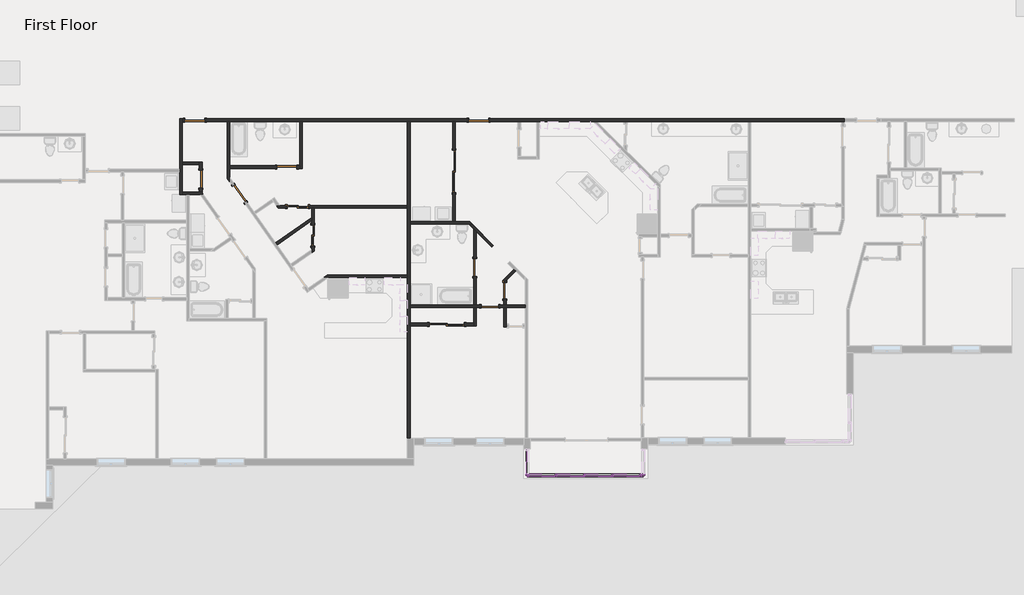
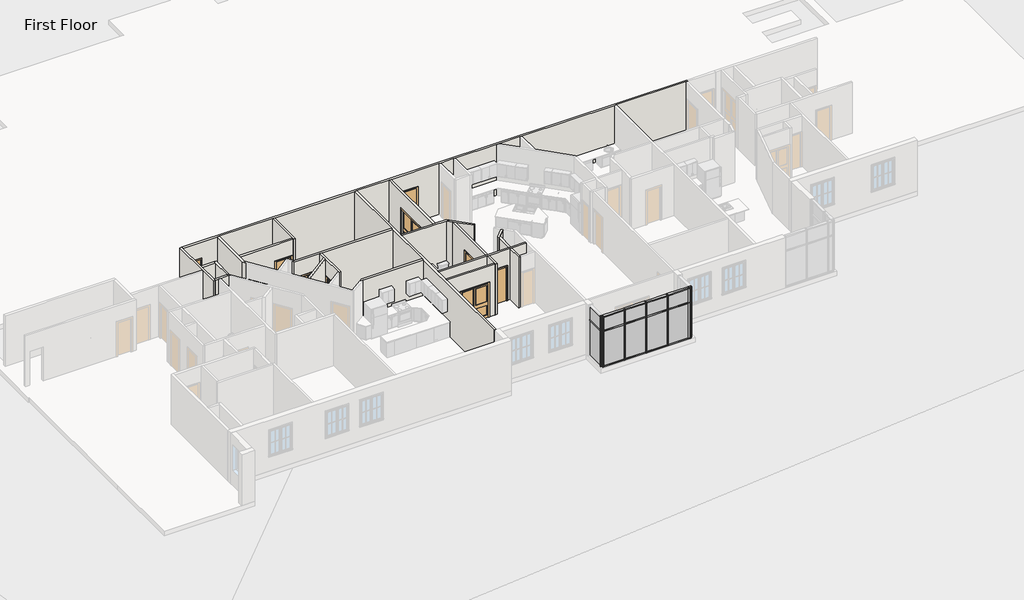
# One storey, part 3 of 17: 32 members, 23 walls, 12 doors, 12 plates.
"""IFC4 building model written with IfcOpenShell, lengths in millimetres."""

from ifc_helpers import new_model, si_unit, frame, origin, origin_with_axes, place, context, project, spatial, polyline, outline, extrude, faceted_brep, transform, mapped, element, save
from components import door_f2586ccf, door_d8f5dbb5, door_f2b275c1, door_825b8444, door_c29894e6, door_88c23cd7, door_2e7ec8be, door_caaf2a11, rectangular_mullion_rectangular_mullion_1_fa3625a1, rectangular_mullion_rectangular_mullion_1_7cbf0b94, rectangular_mullion_rectangular_mullion_1_6186cc23, rectangular_mullion_rectangular_mullion_1_049a2e78, rectangular_mullion_rectangular_mullion_1_a50b3cda, rectangular_mullion_rectangular_mullion_1_5cd4c5ac, rectangular_mullion_rectangular_mullion_1_daa2411d, rectangular_mullion_rectangular_mullion_1_c89d8757, rectangular_mullion_rectangular_mullion_1_6bbe7064, system_panel_glazed_0ed27d1d, system_panel_glazed_134bacdb, system_panel_glazed_2237517c, system_panel_glazed_5f627d4c, system_panel_glazed_119c605a, system_panel_glazed_b87cf22f

model = new_model("IFC4")

# Units and contexts
model_context = context("Model", 3, world=origin())
ifc_project = project(units=[si_unit("LENGTHUNIT", "METRE", prefix="MILLI")], contexts=[model_context])

# Site, building, storey
site = spatial("IfcSite", under=ifc_project)
building = spatial("IfcBuilding", under=site)
storey = spatial("IfcBuildingStorey", under=building, Name="First Floor", Elevation=0.0)

# Doors
placement = place(None, origin())
door_shape = door_f2586ccf(model_context)
element("IfcDoor", 1, ObjectType="Single-Flush : 28\" x 80\"", at=placement, inside=storey, context=model_context, shape_type="MappedRepresentation", body=[
    mapped(door_shape, transform((31589.3040357, -12033.9392565, 0.0), x_axis=(0.0, 1.0, 0.0), y_axis=(-1.0, 0.0, 0.0), z_axis=(0.0, 0.0, 1.0))),
])
door_2_shape = door_d8f5dbb5(model_context)
element("IfcDoor", 2, ObjectType="Single-Flush : 30\" x 80\"", at=placement, inside=storey, context=model_context, shape_type="MappedRepresentation", body=[
    mapped(door_2_shape, transform((18439.6602461, -7206.7219726, 0.0), x_axis=(0.0, -1.0, 0.0), y_axis=(1.0, 0.0, 0.0), z_axis=(0.0, 0.0, 1.0))),
])
door_3_shape = door_f2b275c1(model_context)
element("IfcDoor", 3, ObjectType="Single-Flush : 30\" x 80\"", at=placement, inside=storey, context=model_context, shape_type="MappedRepresentation", body=[
    mapped(door_3_shape, transform((30941.6040357, -12707.1736347, 0.0), x_axis=(1.0, 0.0, 0.0), y_axis=(0.0, 1.0, 0.0), z_axis=(0.0, 0.0, 1.0))),
])
element("IfcDoor", 4, ObjectType="Single-Flush : 30\" x 80\"", at=placement, inside=storey, context=model_context, shape_type="MappedRepresentation", body=[
    mapped(door_3_shape, transform((30293.9040357, -11030.7736347, 0.0), x_axis=(0.0, -1.0, 0.0), y_axis=(1.0, 0.0, 0.0), z_axis=(0.0, 0.0, 1.0))),
])
door_4_shape = door_825b8444(model_context)
element("IfcDoor", 5, ObjectType="Single-Flush : 34\" x 80\"", at=placement, inside=storey, context=model_context, shape_type="MappedRepresentation", body=[
    mapped(door_4_shape, transform((20114.7748093, -7834.753233, 0.0), x_axis=(-0.5735764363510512, 0.8191520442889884, 0.0), y_axis=(-0.8191520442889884, -0.5735764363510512, 0.0), z_axis=(0.0, 0.0, 1.0))),
])
door_5_shape = door_c29894e6(model_context)
element("IfcDoor", 6, ObjectType="Single-Flush : 34\" x 80\"", at=placement, inside=storey, context=model_context, shape_type="MappedRepresentation", body=[
    mapped(door_5_shape, transform((18188.1416991, -4651.3917963, 0.0), x_axis=(-1.0, 0.0, 0.0), y_axis=(0.0, -1.0, 0.0), z_axis=(0.0, 0.0, 1.0))),
])
element("IfcDoor", 7, ObjectType="Single-Flush : 34\" x 80\"", at=placement, inside=storey, context=model_context, shape_type="MappedRepresentation", body=[
    mapped(door_5_shape, transform((22162.0691338, -6683.3917963, 0.0), x_axis=(1.0, 0.0, 0.0), y_axis=(0.0, 1.0, 0.0), z_axis=(0.0, 0.0, 1.0))),
])
element("IfcDoor", 8, ObjectType="Single-Flush : 34\" x 80\"", at=placement, inside=storey, context=model_context, shape_type="MappedRepresentation", body=[
    mapped(door_5_shape, transform((30456.3297218, -4651.3917963, 0.0), x_axis=(-1.0, 0.0, 0.0), y_axis=(0.0, -1.0, 0.0), z_axis=(0.0, 0.0, 1.0))),
])
door_6_shape = door_88c23cd7(model_context)
element("IfcDoor", 9, ObjectType="Sliding-Closet : 36\" x 80\"", at=placement, inside=storey, context=model_context, shape_type="MappedRepresentation", body=[
    mapped(door_6_shape, transform((23160.2196169, -9642.0427038, 0.0), x_axis=(0.0, -1.0, 0.0), y_axis=(1.0, 0.0, 0.0), z_axis=(0.0, 0.0, 1.0))),
])
element("IfcDoor", 10, ObjectType="Sliding-Closet : 36\" x 80\"", at=placement, inside=storey, context=model_context, shape_type="MappedRepresentation", body=[
    mapped(door_6_shape, transform((22626.8196169, -8270.4427038, 0.0), x_axis=(-1.0, 0.0, 0.0), y_axis=(0.0, -1.0, 0.0), z_axis=(0.0, 0.0, 1.0))),
])
door_7_shape = door_2e7ec8be(model_context)
element("IfcDoor", 11, ObjectType="Sliding-Closet : 60\" x 80\"", at=placement, inside=storey, context=model_context, shape_type="MappedRepresentation", body=[
    mapped(door_7_shape, transform((29074.7040357, -13371.9064679, 0.0), x_axis=(-1.0, 0.0, 0.0), y_axis=(0.0, -1.0, 0.0), z_axis=(0.0, 0.0, 1.0))),
])
door_8_shape = door_caaf2a11(model_context)
element("IfcDoor", 12, ObjectType="Sliding-Closet : 72\" x 80\"", at=placement, inside=storey, context=model_context, shape_type="MappedRepresentation", body=[
    mapped(door_8_shape, transform((29262.5297218, -6874.7901817, 0.0), x_axis=(0.0, -1.0, 0.0), y_axis=(1.0, 0.0, 0.0), z_axis=(0.0, 0.0, 1.0))),
])

# Members
rectangular_mullion_rectangular_mullion_1_shape = rectangular_mullion_rectangular_mullion_1_fa3625a1(model_context)
element("IfcMember", 13, ObjectType="Rectangular Mullion : Rectangular Mullion 1", at=placement, inside=storey, context=model_context, shape_type="MappedRepresentation", body=[
    mapped(rectangular_mullion_rectangular_mullion_1_shape, transform((33772.8620392, -20021.7015972, 3048.0), x_axis=(0.0, 0.0, 1.0), y_axis=(0.0, -1.0, 0.0), z_axis=(1.0, 0.0, 0.0))),
])
element("IfcMember", 14, ObjectType="Rectangular Mullion : Rectangular Mullion 1", at=placement, inside=storey, context=model_context, shape_type="MappedRepresentation", body=[
    mapped(rectangular_mullion_rectangular_mullion_1_shape, transform((34992.0620392, -20021.7015972, 3048.0), x_axis=(0.0, 0.0, 1.0), y_axis=(0.0, -1.0, 0.0), z_axis=(1.0, 0.0, 0.0))),
])
element("IfcMember", 15, ObjectType="Rectangular Mullion : Rectangular Mullion 1", at=placement, inside=storey, context=model_context, shape_type="MappedRepresentation", body=[
    mapped(rectangular_mullion_rectangular_mullion_1_shape, transform((36211.2620392, -20021.7015972, 3048.0), x_axis=(0.0, 0.0, 1.0), y_axis=(0.0, -1.0, 0.0), z_axis=(1.0, 0.0, 0.0))),
])
element("IfcMember", 16, ObjectType="Rectangular Mullion : Rectangular Mullion 1", at=placement, inside=storey, context=model_context, shape_type="MappedRepresentation", body=[
    mapped(rectangular_mullion_rectangular_mullion_1_shape, transform((37430.4620392, -20021.7015972, 3048.0), x_axis=(0.0, 0.0, 1.0), y_axis=(0.0, -1.0, 0.0), z_axis=(1.0, 0.0, 0.0))),
])
element("IfcMember", 17, ObjectType="Rectangular Mullion : Rectangular Mullion 1", at=placement, inside=storey, context=model_context, shape_type="MappedRepresentation", body=[
    mapped(rectangular_mullion_rectangular_mullion_1_shape, transform((32617.1620389, -20021.7015972, 0.0), x_axis=(0.0, 0.0, -1.0), y_axis=(0.0, -1.0, 0.0), z_axis=(-1.0, 0.0, 0.0))),
])
element("IfcMember", 18, ObjectType="Rectangular Mullion : Rectangular Mullion 1", at=placement, inside=storey, context=model_context, shape_type="MappedRepresentation", body=[
    mapped(rectangular_mullion_rectangular_mullion_1_shape, transform((33836.3620392, -20021.7015972, 0.0), x_axis=(0.0, 0.0, -1.0), y_axis=(0.0, -1.0, 0.0), z_axis=(-1.0, 0.0, 0.0))),
])
element("IfcMember", 19, ObjectType="Rectangular Mullion : Rectangular Mullion 1", at=placement, inside=storey, context=model_context, shape_type="MappedRepresentation", body=[
    mapped(rectangular_mullion_rectangular_mullion_1_shape, transform((35055.5620392, -20021.7015972, 0.0), x_axis=(0.0, 0.0, -1.0), y_axis=(0.0, -1.0, 0.0), z_axis=(-1.0, 0.0, 0.0))),
])
element("IfcMember", 20, ObjectType="Rectangular Mullion : Rectangular Mullion 1", at=placement, inside=storey, context=model_context, shape_type="MappedRepresentation", body=[
    mapped(rectangular_mullion_rectangular_mullion_1_shape, transform((36274.7620392, -20021.7015972, 0.0), x_axis=(0.0, 0.0, -1.0), y_axis=(0.0, -1.0, 0.0), z_axis=(-1.0, 0.0, 0.0))),
])
rectangular_mullion_rectangular_mullion_1_2_shape = rectangular_mullion_rectangular_mullion_1_7cbf0b94(model_context)
element("IfcMember", 21, ObjectType="Rectangular Mullion : Rectangular Mullion 1", at=placement, inside=storey, context=model_context, shape_type="MappedRepresentation", body=[
    mapped(rectangular_mullion_rectangular_mullion_1_2_shape, transform((33772.8620392, -20021.7015972, 2165.35), x_axis=(0.0, 0.0, 1.0), y_axis=(0.0, -1.0, 0.0), z_axis=(1.0, 0.0, 0.0))),
])
element("IfcMember", 22, ObjectType="Rectangular Mullion : Rectangular Mullion 1", at=placement, inside=storey, context=model_context, shape_type="MappedRepresentation", body=[
    mapped(rectangular_mullion_rectangular_mullion_1_2_shape, transform((34992.0620392, -20021.7015972, 2165.35), x_axis=(0.0, 0.0, 1.0), y_axis=(0.0, -1.0, 0.0), z_axis=(1.0, 0.0, 0.0))),
])
element("IfcMember", 23, ObjectType="Rectangular Mullion : Rectangular Mullion 1", at=placement, inside=storey, context=model_context, shape_type="MappedRepresentation", body=[
    mapped(rectangular_mullion_rectangular_mullion_1_2_shape, transform((36211.2620392, -20021.7015972, 2165.35), x_axis=(0.0, 0.0, 1.0), y_axis=(0.0, -1.0, 0.0), z_axis=(1.0, 0.0, 0.0))),
])
element("IfcMember", 24, ObjectType="Rectangular Mullion : Rectangular Mullion 1", at=placement, inside=storey, context=model_context, shape_type="MappedRepresentation", body=[
    mapped(rectangular_mullion_rectangular_mullion_1_2_shape, transform((37430.4620392, -20021.7015972, 2165.35), x_axis=(0.0, 0.0, 1.0), y_axis=(0.0, -1.0, 0.0), z_axis=(1.0, 0.0, 0.0))),
])
rectangular_mullion_rectangular_mullion_1_3_shape = rectangular_mullion_rectangular_mullion_1_6186cc23(model_context)
element("IfcMember", 25, ObjectType="Rectangular Mullion : Rectangular Mullion 1", at=placement, inside=storey, context=model_context, shape_type="MappedRepresentation", body=[
    mapped(rectangular_mullion_rectangular_mullion_1_3_shape, transform((33804.6120392, -20021.7015972, 0.0), x_axis=(1.0, 0.0, 0.0), y_axis=(0.0, -1.0, 0.0), z_axis=(0.0, 0.0, -1.0))),
])
element("IfcMember", 26, ObjectType="Rectangular Mullion : Rectangular Mullion 1", at=placement, inside=storey, context=model_context, shape_type="MappedRepresentation", body=[
    mapped(rectangular_mullion_rectangular_mullion_1_3_shape, transform((35023.8120392, -20021.7015972, 0.0), x_axis=(1.0, 0.0, 0.0), y_axis=(0.0, -1.0, 0.0), z_axis=(0.0, 0.0, -1.0))),
])
element("IfcMember", 27, ObjectType="Rectangular Mullion : Rectangular Mullion 1", at=placement, inside=storey, context=model_context, shape_type="MappedRepresentation", body=[
    mapped(rectangular_mullion_rectangular_mullion_1_3_shape, transform((36243.0120392, -20021.7015972, 0.0), x_axis=(1.0, 0.0, 0.0), y_axis=(0.0, -1.0, 0.0), z_axis=(0.0, 0.0, -1.0))),
])
element("IfcMember", 28, ObjectType="Rectangular Mullion : Rectangular Mullion 1", at=placement, inside=storey, context=model_context, shape_type="MappedRepresentation", body=[
    mapped(rectangular_mullion_rectangular_mullion_1_3_shape, transform((37462.2120392, -20021.7015972, 0.0), x_axis=(1.0, 0.0, 0.0), y_axis=(0.0, -1.0, 0.0), z_axis=(0.0, 0.0, -1.0))),
])
rectangular_mullion_rectangular_mullion_1_4_shape = rectangular_mullion_rectangular_mullion_1_049a2e78(model_context)
element("IfcMember", 29, ObjectType="Rectangular Mullion : Rectangular Mullion 1", at=placement, inside=storey, context=model_context, shape_type="MappedRepresentation", body=[
    mapped(rectangular_mullion_rectangular_mullion_1_4_shape, transform((33804.6120392, -20021.7015972, 2165.35), x_axis=(1.0, 0.0, 0.0), y_axis=(0.0, -1.0, 0.0), z_axis=(0.0, 0.0, -1.0))),
])
element("IfcMember", 30, ObjectType="Rectangular Mullion : Rectangular Mullion 1", at=placement, inside=storey, context=model_context, shape_type="MappedRepresentation", body=[
    mapped(rectangular_mullion_rectangular_mullion_1_4_shape, transform((35023.8120392, -20021.7015972, 2165.35), x_axis=(1.0, 0.0, 0.0), y_axis=(0.0, -1.0, 0.0), z_axis=(0.0, 0.0, -1.0))),
])
element("IfcMember", 31, ObjectType="Rectangular Mullion : Rectangular Mullion 1", at=placement, inside=storey, context=model_context, shape_type="MappedRepresentation", body=[
    mapped(rectangular_mullion_rectangular_mullion_1_4_shape, transform((36243.0120392, -20021.7015972, 2165.35), x_axis=(1.0, 0.0, 0.0), y_axis=(0.0, -1.0, 0.0), z_axis=(0.0, 0.0, -1.0))),
])
element("IfcMember", 32, ObjectType="Rectangular Mullion : Rectangular Mullion 1", at=placement, inside=storey, context=model_context, shape_type="MappedRepresentation", body=[
    mapped(rectangular_mullion_rectangular_mullion_1_4_shape, transform((37462.2120392, -20021.7015972, 2165.35), x_axis=(1.0, 0.0, 0.0), y_axis=(0.0, -1.0, 0.0), z_axis=(0.0, 0.0, -1.0))),
])
rectangular_mullion_rectangular_mullion_1_5_shape = rectangular_mullion_rectangular_mullion_1_a50b3cda(model_context)
element("IfcMember", 33, ObjectType="Rectangular Mullion : Rectangular Mullion 1", at=placement, inside=storey, context=model_context, shape_type="MappedRepresentation", body=[
    mapped(rectangular_mullion_rectangular_mullion_1_5_shape, transform((32553.6620389, -20021.7015972, 0.0), x_axis=(0.0, -1.0, 0.0), y_axis=(-1.0, 0.0, 0.0), z_axis=(0.0, 0.0, -1.0))),
])
element("IfcMember", 34, ObjectType="Rectangular Mullion : Rectangular Mullion 1", at=placement, inside=storey, context=model_context, shape_type="MappedRepresentation", body=[
    mapped(rectangular_mullion_rectangular_mullion_1_5_shape, transform((37582.8620389, -20021.7015972, 0.0), x_axis=(1.0, 0.0, 0.0), y_axis=(0.0, -1.0, 0.0), z_axis=(0.0, 0.0, -1.0))),
])
rectangular_mullion_rectangular_mullion_1_6_shape = rectangular_mullion_rectangular_mullion_1_5cd4c5ac(model_context)
element("IfcMember", 35, ObjectType="Rectangular Mullion : Rectangular Mullion 1", at=placement, inside=storey, context=model_context, shape_type="MappedRepresentation", body=[
    mapped(rectangular_mullion_rectangular_mullion_1_6_shape, transform((32553.6620389, -20021.7015972, 2165.35), x_axis=(0.0, -1.0, 0.0), y_axis=(-1.0, 0.0, 0.0), z_axis=(0.0, 0.0, -1.0))),
])
element("IfcMember", 36, ObjectType="Rectangular Mullion : Rectangular Mullion 1", at=placement, inside=storey, context=model_context, shape_type="MappedRepresentation", body=[
    mapped(rectangular_mullion_rectangular_mullion_1_6_shape, transform((37582.8620389, -20021.7015972, 2165.35), x_axis=(1.0, 0.0, 0.0), y_axis=(0.0, -1.0, 0.0), z_axis=(0.0, 0.0, -1.0))),
])
element("IfcMember", 37, ObjectType="Rectangular Mullion : Rectangular Mullion 1", at=placement, inside=storey, context=model_context, shape_type="MappedRepresentation", body=[
    mapped(rectangular_mullion_rectangular_mullion_1_6_shape, transform((32553.6620389, -20021.7015972, 3048.0), x_axis=(-1.0, 0.0, 0.0), y_axis=(0.0, -1.0, 0.0), z_axis=(0.0, 0.0, 1.0))),
])
element("IfcMember", 38, ObjectType="Rectangular Mullion : Rectangular Mullion 1", at=placement, inside=storey, context=model_context, shape_type="MappedRepresentation", body=[
    mapped(rectangular_mullion_rectangular_mullion_1_6_shape, transform((37582.8620389, -20021.7015972, 3048.0), x_axis=(0.0, -1.0, 0.0), y_axis=(1.0, 0.0, 0.0), z_axis=(0.0, 0.0, 1.0))),
])
element("IfcMember", 39, ObjectType="Rectangular Mullion : Rectangular Mullion 1", at=placement, inside=storey, context=model_context, shape_type="MappedRepresentation", body=[
    mapped(rectangular_mullion_rectangular_mullion_1_5_shape, transform((32553.6620389, -20021.7015972, 2165.35), x_axis=(-1.0, 0.0, 0.0), y_axis=(0.0, -1.0, 0.0), z_axis=(0.0, 0.0, 1.0))),
])
element("IfcMember", 40, ObjectType="Rectangular Mullion : Rectangular Mullion 1", at=placement, inside=storey, context=model_context, shape_type="MappedRepresentation", body=[
    mapped(rectangular_mullion_rectangular_mullion_1_5_shape, transform((37582.8620389, -20021.7015972, 2165.35), x_axis=(0.0, -1.0, 0.0), y_axis=(1.0, 0.0, 0.0), z_axis=(0.0, 0.0, 1.0))),
])
rectangular_mullion_rectangular_mullion_1_7_shape = rectangular_mullion_rectangular_mullion_1_daa2411d(model_context)
element("IfcMember", 41, ObjectType="Rectangular Mullion : Rectangular Mullion 1", at=placement, inside=storey, context=model_context, shape_type="MappedRepresentation", body=[
    mapped(rectangular_mullion_rectangular_mullion_1_7_shape, transform((32553.6620389, -19958.2015972, 2165.35), x_axis=(0.0, 0.0, 1.0), y_axis=(-1.0, 0.0, 0.0), z_axis=(0.0, -1.0, 0.0))),
])
rectangular_mullion_rectangular_mullion_1_8_shape = rectangular_mullion_rectangular_mullion_1_c89d8757(model_context)
element("IfcMember", 42, ObjectType="Rectangular Mullion : Rectangular Mullion 1", at=placement, inside=storey, context=model_context, shape_type="MappedRepresentation", body=[
    mapped(rectangular_mullion_rectangular_mullion_1_8_shape, transform((37519.3620389, -20021.7015972, 3048.0), x_axis=(0.0, 0.0, 1.0), y_axis=(0.0, -1.0, 0.0), z_axis=(1.0, 0.0, 0.0))),
])
element("IfcMember", 43, ObjectType="Rectangular Mullion : Rectangular Mullion 1", at=placement, inside=storey, context=model_context, shape_type="MappedRepresentation", body=[
    mapped(rectangular_mullion_rectangular_mullion_1_8_shape, transform((37493.9620392, -20021.7015972, 0.0), x_axis=(0.0, 0.0, -1.0), y_axis=(0.0, -1.0, 0.0), z_axis=(-1.0, 0.0, 0.0))),
])
rectangular_mullion_rectangular_mullion_1_9_shape = rectangular_mullion_rectangular_mullion_1_6bbe7064(model_context)
element("IfcMember", 44, ObjectType="Rectangular Mullion : Rectangular Mullion 1", at=placement, inside=storey, context=model_context, shape_type="MappedRepresentation", body=[
    mapped(rectangular_mullion_rectangular_mullion_1_9_shape, transform((37519.3620389, -20021.7015972, 2165.35), x_axis=(0.0, 0.0, 1.0), y_axis=(0.0, -1.0, 0.0), z_axis=(1.0, 0.0, 0.0))),
])

# Plates
system_panel_glazed_shape = system_panel_glazed_0ed27d1d(model_context)
element("IfcPlate", 45, ObjectType="System Panel : Glazed", at=placement, inside=storey, context=model_context, shape_type="MappedRepresentation", body=[
    mapped(system_panel_glazed_shape, transform((33195.012039, -20021.7015972, 63.5), x_axis=(1.0, 0.0, 0.0), y_axis=(0.0, 1.0, 0.0), z_axis=(0.0, 0.0, 1.0))),
])
element("IfcPlate", 46, ObjectType="System Panel : Glazed", at=placement, inside=storey, context=model_context, shape_type="MappedRepresentation", body=[
    mapped(system_panel_glazed_shape, transform((34414.2120392, -20021.7015972, 63.5), x_axis=(1.0, 0.0, 0.0), y_axis=(0.0, 1.0, 0.0), z_axis=(0.0, 0.0, 1.0))),
])
element("IfcPlate", 47, ObjectType="System Panel : Glazed", at=placement, inside=storey, context=model_context, shape_type="MappedRepresentation", body=[
    mapped(system_panel_glazed_shape, transform((35633.4120392, -20021.7015972, 63.5), x_axis=(1.0, 0.0, 0.0), y_axis=(0.0, 1.0, 0.0), z_axis=(0.0, 0.0, 1.0))),
])
element("IfcPlate", 48, ObjectType="System Panel : Glazed", at=placement, inside=storey, context=model_context, shape_type="MappedRepresentation", body=[
    mapped(system_panel_glazed_shape, transform((36852.6120392, -20021.7015972, 63.5), x_axis=(1.0, 0.0, 0.0), y_axis=(0.0, 1.0, 0.0), z_axis=(0.0, 0.0, 1.0))),
])
system_panel_glazed_2_shape = system_panel_glazed_134bacdb(model_context)
element("IfcPlate", 49, ObjectType="System Panel : Glazed", at=placement, inside=storey, context=model_context, shape_type="MappedRepresentation", body=[
    mapped(system_panel_glazed_2_shape, transform((33195.012039, -20021.7015972, 2197.1), x_axis=(1.0, 0.0, 0.0), y_axis=(0.0, 1.0, 0.0), z_axis=(0.0, 0.0, 1.0))),
])
element("IfcPlate", 50, ObjectType="System Panel : Glazed", at=placement, inside=storey, context=model_context, shape_type="MappedRepresentation", body=[
    mapped(system_panel_glazed_2_shape, transform((34414.2120392, -20021.7015972, 2197.1), x_axis=(1.0, 0.0, 0.0), y_axis=(0.0, 1.0, 0.0), z_axis=(0.0, 0.0, 1.0))),
])
element("IfcPlate", 51, ObjectType="System Panel : Glazed", at=placement, inside=storey, context=model_context, shape_type="MappedRepresentation", body=[
    mapped(system_panel_glazed_2_shape, transform((35633.4120392, -20021.7015972, 2197.1), x_axis=(1.0, 0.0, 0.0), y_axis=(0.0, 1.0, 0.0), z_axis=(0.0, 0.0, 1.0))),
])
element("IfcPlate", 52, ObjectType="System Panel : Glazed", at=placement, inside=storey, context=model_context, shape_type="MappedRepresentation", body=[
    mapped(system_panel_glazed_2_shape, transform((36852.6120392, -20021.7015972, 2197.1), x_axis=(1.0, 0.0, 0.0), y_axis=(0.0, 1.0, 0.0), z_axis=(0.0, 0.0, 1.0))),
])
system_panel_glazed_3_shape = system_panel_glazed_2237517c(model_context)
element("IfcPlate", 53, ObjectType="System Panel : Glazed", at=placement, inside=storey, context=model_context, shape_type="MappedRepresentation", body=[
    mapped(system_panel_glazed_3_shape, transform((32553.6620389, -19447.029128, 63.5), x_axis=(0.0, -1.0, 0.0), y_axis=(1.0, 0.0, 0.0), z_axis=(0.0, 0.0, 1.0))),
])
system_panel_glazed_4_shape = system_panel_glazed_5f627d4c(model_context)
element("IfcPlate", 54, ObjectType="System Panel : Glazed", at=placement, inside=storey, context=model_context, shape_type="MappedRepresentation", body=[
    mapped(system_panel_glazed_4_shape, transform((32553.6620389, -19447.029128, 2197.1), x_axis=(0.0, -1.0, 0.0), y_axis=(1.0, 0.0, 0.0), z_axis=(0.0, 0.0, 1.0))),
])
system_panel_glazed_5_shape = system_panel_glazed_119c605a(model_context)
element("IfcPlate", 55, ObjectType="System Panel : Glazed", at=placement, inside=storey, context=model_context, shape_type="MappedRepresentation", body=[
    mapped(system_panel_glazed_5_shape, transform((37506.662039, -20021.7015972, 63.5), x_axis=(1.0, 0.0, 0.0), y_axis=(0.0, 1.0, 0.0), z_axis=(0.0, 0.0, 1.0))),
])
system_panel_glazed_6_shape = system_panel_glazed_b87cf22f(model_context)
element("IfcPlate", 56, ObjectType="System Panel : Glazed", at=placement, inside=storey, context=model_context, shape_type="MappedRepresentation", body=[
    mapped(system_panel_glazed_6_shape, transform((37506.662039, -20021.7015972, 2197.1), x_axis=(1.0, 0.0, 0.0), y_axis=(0.0, 1.0, 0.0), z_axis=(0.0, 0.0, 1.0))),
])

# Walls
element("IfcWall", 57, ObjectType="Interior - 4 1/2\" Partition", at=placement, inside=storey, context=model_context, shape_type="Brep", body=[
    faceted_brep([(17521.3916991, -4594.2417963, 0.0), (17521.3916991, -6779.3712391, 0.0), (17521.3916991, -6893.6712391, 0.0), (17521.3916991, -7873.4719726, 0.0), (17521.3916991, -7873.4719726, 3048.0), (17521.3916991, -6893.6712391, 3048.0), (17521.3916991, -6779.3712391, 3048.0), (17521.3916991, -4594.2417963, 3048.0), (17635.6916991, -4594.2417963, 0.0), (17635.6916991, -4594.2417963, 3048.0), (17635.6916991, -4708.5417963, 3048.0), (17635.6916991, -6473.8417963, 3048.0), (17635.6916991, -6588.1417963, 3048.0), (17635.6916991, -7759.1719726, 3048.0), (17635.6916991, -7873.4719726, 3048.0), (17635.6916991, -7873.4719726, 0.0), (17635.6916991, -7759.1719726, 0.0), (17635.6916991, -6588.1417963, 0.0), (17635.6916991, -6473.8417963, 0.0), (17635.6916991, -4708.5417963, 0.0)], [[[0, 1, 2, 3, 4, 5, 6, 7]], [[8, 9, 10, 11, 12, 13, 14, 15, 16, 17, 18, 19]], [[3, 2, 1, 0, 8, 19, 18, 17, 16, 15]], [[7, 6, 5, 4, 14, 13, 12, 11, 10, 9]], [[0, 7, 9, 8]], [[4, 3, 15, 14]]]),
])
element("IfcWall", 58, ObjectType="Interior - 4 1/2\" Partition", at=placement, inside=storey, context=model_context, shape_type="Brep", body=[
    faceted_brep([(17635.6916991, -7873.4719726, 0.0), (17837.7191338, -7873.4719726, 0.0), (17952.0191338, -7873.4719726, 0.0), (18417.502921, -7873.4719726, 0.0), (18557.0374565, -7873.4719726, 0.0), (18557.0374565, -7873.4719726, 3048.0), (18417.502921, -7873.4719726, 3048.0), (17952.0191338, -7873.4719726, 3048.0), (17837.7191338, -7873.4719726, 3048.0), (17635.6916991, -7873.4719726, 3048.0), (17635.6916991, -7759.1719726, 0.0), (17635.6916991, -7759.1719726, 3048.0), (18382.5102461, -7759.1719726, 3048.0), (18477.0037349, -7759.1719726, 3048.0), (18477.0037349, -7759.1719726, 0.0), (18382.5102461, -7759.1719726, 0.0), (18496.8102461, -7787.4586021, 0.0), (18496.8102461, -7787.4586021, 3048.0)], [[[0, 1, 2, 3, 4, 5, 6, 7, 8, 9]], [[10, 11, 12, 13, 14, 15]], [[4, 3, 2, 1, 0, 10, 15, 14, 16]], [[9, 8, 7, 6, 5, 17, 13, 12, 11]], [[5, 4, 16, 14, 13, 17]], [[0, 9, 11, 10]]]),
])
element("IfcWall", 59, ObjectType="Interior - 4 1/2\" Partition", at=placement, inside=storey, context=model_context, shape_type="Brep", body=[
    faceted_brep([(18619.9416991, -4708.5417963, 0.0), (19583.8594272, -4708.5417963, 0.0), (19698.1594272, -4708.5417963, 0.0), (22714.5191338, -4708.5417963, 0.0), (22828.8191338, -4708.5417963, 0.0), (27373.7365862, -4708.5417963, 0.0), (27488.0365862, -4708.5417963, 0.0), (29332.3797218, -4708.5417963, 0.0), (29446.6797218, -4708.5417963, 0.0), (30024.5297218, -4708.5417963, 0.0), (30024.5297218, -4708.5417963, 2032.0), (30888.1297218, -4708.5417963, 2032.0), (30888.1297218, -4708.5417963, 0.0), (32155.9966966, -4708.5417963, 0.0), (32270.2966966, -4708.5417963, 0.0), (32968.7966966, -4708.5417963, 0.0), (33083.0966966, -4708.5417963, 0.0), (35406.7151666, -4708.5417963, 0.0), (35568.3597768, -4708.5417963, 0.0), (36748.8505062, -4708.5417963, 0.0), (36863.1505062, -4708.5417963, 0.0), (42109.9470292, -4708.5417963, 0.0), (42224.2470292, -4708.5417963, 0.0), (46162.3050668, -4708.5417963, 0.0), (46276.6050668, -4708.5417963, 0.0), (46276.6050668, -4708.5417963, 3048.0), (46162.3050668, -4708.5417963, 3048.0), (42224.2470292, -4708.5417963, 3048.0), (42109.9470292, -4708.5417963, 3048.0), (36863.1505062, -4708.5417963, 3048.0), (36748.8505062, -4708.5417963, 3048.0), (35568.3597768, -4708.5417963, 3048.0), (35406.7151666, -4708.5417963, 3048.0), (33083.0966966, -4708.5417963, 3048.0), (32968.7966966, -4708.5417963, 3048.0), (32270.2966966, -4708.5417963, 3048.0), (32155.9966966, -4708.5417963, 3048.0), (29446.6797218, -4708.5417963, 3048.0), (29332.3797218, -4708.5417963, 3048.0), (27488.0365862, -4708.5417963, 3048.0), (27373.7365862, -4708.5417963, 3048.0), (22828.8191338, -4708.5417963, 3048.0), (22714.5191338, -4708.5417963, 3048.0), (19698.1594272, -4708.5417963, 3048.0), (19583.8594272, -4708.5417963, 3048.0), (17635.6916991, -4708.5417963, 3048.0), (17635.6916991, -4708.5417963, 0.0), (17756.3416991, -4708.5417963, 0.0), (17756.3416991, -4708.5417963, 2032.0), (18619.9416991, -4708.5417963, 2032.0), (30024.5297218, -4594.2417963, 2032.0), (30024.5297218, -4594.2417963, 0.0), (18619.9416991, -4594.2417963, 0.0), (18619.9416991, -4594.2417963, 2032.0), (17756.3416991, -4594.2417963, 2032.0), (17756.3416991, -4594.2417963, 0.0), (17635.6916991, -4594.2417963, 0.0), (17635.6916991, -4594.2417963, 3048.0), (46276.6050668, -4594.2417963, 3048.0), (46276.6050668, -4594.2417963, 0.0), (30888.1297218, -4594.2417963, 0.0), (30888.1297218, -4594.2417963, 2032.0)], [[[0, 1, 2, 3, 4, 5, 6, 7, 8, 9, 10, 11, 12, 13, 14, 15, 16, 17, 18, 19, 20, 21, 22, 23, 24, 25, 26, 27, 28, 29, 30, 31, 32, 33, 34, 35, 36, 37, 38, 39, 40, 41, 42, 43, 44, 45, 46, 47, 48, 49]], [[50, 51, 52, 53, 54, 55, 56, 57, 58, 59, 60, 61]], [[56, 55, 47, 46]], [[60, 59, 24, 23, 22, 21, 20, 19, 18, 17, 16, 15, 14, 13, 12]], [[52, 51, 9, 8, 7, 6, 5, 4, 3, 2, 1, 0]], [[45, 44, 43, 42, 41, 40, 39, 38, 37, 36, 35, 34, 33, 32, 31, 30, 29, 28, 27, 26, 25, 58, 57]], [[48, 47, 55, 54]], [[49, 48, 54, 53]], [[0, 49, 53, 52]], [[10, 9, 51, 50]], [[11, 10, 50, 61]], [[12, 11, 61, 60]], [[25, 24, 59, 58]], [[46, 45, 57, 56]]]),
])
element("IfcWall", 60, ObjectType="Interior - 4 1/2\" Partition", at=placement, inside=storey, context=model_context, shape_type="Brep", body=[
    faceted_brep([(27373.7365862, -4708.5417963, 0.0), (27373.7365862, -8340.2927038, 0.0), (27373.7365862, -8454.5927038, 0.0), (27373.7365862, -11354.6236347, 0.0), (27373.7365862, -11468.9236347, 0.0), (27373.7365862, -18426.2691587, 0.0), (27373.7365862, -18426.2691587, 3048.0), (27373.7365862, -11468.9236347, 3048.0), (27373.7365862, -11354.6236347, 3048.0), (27373.7365862, -8454.5927038, 3048.0), (27373.7365862, -8340.2927038, 3048.0), (27373.7365862, -4708.5417963, 3048.0), (27488.0365862, -4708.5417963, 0.0), (27488.0365862, -4708.5417963, 3048.0), (27488.0365862, -9041.0385671, 3048.0), (27488.0365862, -9155.3385671, 3048.0), (27488.0365862, -12650.0236347, 3048.0), (27488.0365862, -12764.3236347, 3048.0), (27488.0365862, -13441.7564679, 3048.0), (27488.0365862, -13556.0564679, 3048.0), (27488.0365862, -18426.2691587, 3048.0), (27488.0365862, -18426.2691587, 0.0), (27488.0365862, -13556.0564679, 0.0), (27488.0365862, -13441.7564679, 0.0), (27488.0365862, -12764.3236347, 0.0), (27488.0365862, -12650.0236347, 0.0), (27488.0365862, -9155.3385671, 0.0), (27488.0365862, -9041.0385671, 0.0)], [[[0, 1, 2, 3, 4, 5, 6, 7, 8, 9, 10, 11]], [[12, 13, 14, 15, 16, 17, 18, 19, 20, 21, 22, 23, 24, 25, 26, 27]], [[5, 4, 3, 2, 1, 0, 12, 27, 26, 25, 24, 23, 22, 21]], [[11, 10, 9, 8, 7, 6, 20, 19, 18, 17, 16, 15, 14, 13]], [[0, 11, 13, 12]], [[6, 5, 21, 20]]]),
])
element("IfcWall", 61, ObjectType="Interior - 4 1/2\" Partition", at=placement, inside=storey, context=model_context, shape_type="Brep", body=[
    faceted_brep([(22714.5191338, -4708.5417963, 0.0), (22714.5191338, -6626.2417963, 0.0), (22714.5191338, -6740.5417963, 0.0), (22714.5191338, -6740.5417963, 3048.0), (22714.5191338, -6626.2417963, 3048.0), (22714.5191338, -4708.5417963, 3048.0), (22828.8191338, -4708.5417963, 0.0), (22828.8191338, -4708.5417963, 3048.0), (22828.8191338, -6740.5417963, 3048.0), (22828.8191338, -6740.5417963, 0.0)], [[[0, 1, 2, 3, 4, 5]], [[6, 7, 8, 9]], [[2, 1, 0, 6, 9]], [[5, 4, 3, 8, 7]], [[3, 2, 9, 8]], [[0, 5, 7, 6]]]),
])
element("IfcWall", 62, ObjectType="Interior - 4 1/2\" Partition", at=placement, inside=storey, context=model_context, shape_type="SweptSolid", body=[
    extrude(outline(polyline([(2032.0, 22593.8691338), (0.0, 22593.8691338), (0.0, 22714.5191338), (3048.0, 22714.5191338), (3048.0, 19698.1594272), (0.0, 19698.1594272), (0.0, 21730.2691338), (2032.0, 21730.2691338), (2032.0, 22593.8691338)])), frame((0.0, -6740.5417963, 0.0), z_axis=(0.0, 1.0, 0.0), x_axis=(0.0, 0.0, 1.0)), (0.0, 0.0, 1.0), 114.3),
])
element("IfcWall", 63, ObjectType="Interior - 4 1/2\" Partition", at=placement, inside=storey, context=model_context, shape_type="Brep", body=[
    faceted_brep([(19698.1594272, -7339.4027898, 0.0), (19698.1594272, -7140.1268211, 0.0), (19698.1594272, -6740.5417963, 0.0), (19698.1594272, -6626.2417963, 0.0), (19698.1594272, -4708.5417963, 0.0), (19698.1594272, -4708.5417963, 3048.0), (19698.1594272, -6626.2417963, 3048.0), (19698.1594272, -6740.5417963, 3048.0), (19698.1594272, -7140.1268211, 3048.0), (19698.1594272, -7339.4027898, 3048.0), (19583.8594272, -7176.1654727, 0.0), (19583.8594272, -7176.1654727, 3048.0), (19583.8594272, -4708.5417963, 3048.0), (19583.8594272, -4708.5417963, 0.0)], [[[0, 1, 2, 3, 4, 5, 6, 7, 8, 9]], [[10, 11, 12, 13]], [[4, 3, 2, 1, 0, 10, 13]], [[9, 8, 7, 6, 5, 12, 11]], [[0, 9, 11, 10]], [[5, 4, 13, 12]]]),
])
element("IfcWall", 64, ObjectType="Interior - 4 1/2\" Partition", at=placement, inside=storey, context=model_context, shape_type="Brep", body=[
    faceted_brep([(22169.6196169, -8340.2927038, 2032.0), (22169.6196169, -8340.2927038, 0.0), (21847.2369931, -8340.2927038, 0.0), (21707.7024576, -8340.2927038, 0.0), (21707.7024576, -8340.2927038, 3048.0), (21847.2369931, -8340.2927038, 3048.0), (27373.7365862, -8340.2927038, 3048.0), (27373.7365862, -8340.2927038, 0.0), (23084.0196169, -8340.2927038, 0.0), (23084.0196169, -8340.2927038, 2032.0), (21787.7361792, -8454.5927038, 0.0), (22169.6196169, -8454.5927038, 0.0), (22169.6196169, -8454.5927038, 2032.0), (23084.0196169, -8454.5927038, 2032.0), (23084.0196169, -8454.5927038, 0.0), (23230.0696169, -8454.5927038, 0.0), (23344.3696169, -8454.5927038, 0.0), (27373.7365862, -8454.5927038, 0.0), (27373.7365862, -8454.5927038, 3048.0), (23344.3696169, -8454.5927038, 3048.0), (23230.0696169, -8454.5927038, 3048.0), (21787.7361792, -8454.5927038, 3048.0)], [[[0, 1, 2, 3, 4, 5, 6, 7, 8, 9]], [[10, 11, 12, 13, 14, 15, 16, 17, 18, 19, 20, 21]], [[8, 7, 17, 16, 15, 14]], [[3, 2, 1, 11, 10]], [[6, 5, 4, 21, 20, 19, 18]], [[14, 13, 9, 8]], [[12, 11, 1, 0]], [[13, 12, 0, 9]], [[4, 3, 10, 21]], [[7, 6, 18, 17]]]),
])
element("IfcWall", 65, ObjectType="Interior - 4 1/2\" Partition", at=placement, inside=storey, context=model_context, shape_type="SweptSolid", body=[
    extrude(outline(polyline([(23230.0696169, -9008.6594608), (21738.045474, -10053.3860128), (21672.4856873, -9959.7569341), (23230.0696169, -8869.1249253), (23230.0696169, -9008.6594608)])), origin_with_axes(), (0.0, 0.0, 1.0), 3048.0),
])
element("IfcWall", 66, ObjectType="Interior - 4 1/2\" Partition", at=placement, inside=storey, context=model_context, shape_type="Brep", body=[
    faceted_brep([(23230.0696169, -10099.2427038, 2032.0), (23230.0696169, -10099.2427038, 0.0), (23230.0696169, -10255.1038104, 0.0), (23230.0696169, -10394.6383458, 0.0), (23230.0696169, -10394.6383458, 3048.0), (23230.0696169, -10255.1038104, 3048.0), (23230.0696169, -9008.6594608, 3048.0), (23230.0696169, -8869.1249253, 3048.0), (23230.0696169, -8454.5927038, 3048.0), (23230.0696169, -8454.5927038, 0.0), (23230.0696169, -8869.1249253, 0.0), (23230.0696169, -9008.6594608, 0.0), (23230.0696169, -9184.8427038, 0.0), (23230.0696169, -9184.8427038, 2032.0), (23344.3696169, -10314.6046242, 0.0), (23344.3696169, -10099.2427038, 0.0), (23344.3696169, -10099.2427038, 2032.0), (23344.3696169, -9184.8427038, 2032.0), (23344.3696169, -9184.8427038, 0.0), (23344.3696169, -8454.5927038, 0.0), (23344.3696169, -8454.5927038, 3048.0), (23344.3696169, -10314.6046242, 3048.0)], [[[0, 1, 2, 3, 4, 5, 6, 7, 8, 9, 10, 11, 12, 13]], [[14, 15, 16, 17, 18, 19, 20, 21]], [[12, 11, 10, 9, 19, 18]], [[3, 2, 1, 15, 14]], [[8, 7, 6, 5, 4, 21, 20]], [[18, 17, 13, 12]], [[16, 15, 1, 0]], [[17, 16, 0, 13]], [[4, 3, 14, 21]], [[9, 8, 20, 19]]]),
])
element("IfcWall", 67, ObjectType="Interior - 4 1/2\" Partition", at=placement, inside=storey, context=model_context, shape_type="SweptSolid", body=[
    extrude(outline(polyline([(18382.5102461, -6588.1417963), (17635.6916991, -6588.1417963), (17635.6916991, -6473.8417963), (18382.5102461, -6473.8417963), (18382.5102461, -6588.1417963)])), origin_with_axes(), (0.0, 0.0, 1.0), 3048.0),
])
element("IfcWall", 68, ObjectType="Interior - 4 1/2\" Partition", at=placement, inside=storey, context=model_context, shape_type="Brep", body=[
    faceted_brep([(18382.5102461, -7587.7219726, 2032.0), (18382.5102461, -7587.7219726, 0.0), (18382.5102461, -7759.1719726, 0.0), (18382.5102461, -7759.1719726, 3048.0), (18382.5102461, -6588.1417963, 3048.0), (18382.5102461, -6473.8417963, 3048.0), (18382.5102461, -6473.8417963, 0.0), (18382.5102461, -6588.1417963, 0.0), (18382.5102461, -6825.7219726, 0.0), (18382.5102461, -6825.7219726, 2032.0), (18496.8102461, -7787.4586021, 0.0), (18496.8102461, -7587.7219726, 0.0), (18496.8102461, -7587.7219726, 2032.0), (18496.8102461, -6825.7219726, 2032.0), (18496.8102461, -6825.7219726, 0.0), (18496.8102461, -6473.8417963, 0.0), (18496.8102461, -6473.8417963, 3048.0), (18496.8102461, -7787.4586021, 3048.0), (18477.0037349, -7759.1719726, 0.0), (18477.0037349, -7759.1719726, 3048.0)], [[[0, 1, 2, 3, 4, 5, 6, 7, 8, 9]], [[10, 11, 12, 13, 14, 15, 16, 17]], [[2, 1, 11, 10, 18]], [[8, 7, 6, 15, 14]], [[5, 4, 3, 19, 17, 16]], [[12, 11, 1, 0]], [[13, 12, 0, 9]], [[14, 13, 9, 8]], [[6, 5, 16, 15]], [[3, 2, 18, 19]], [[18, 10, 17, 19]]]),
])
element("IfcWall", 69, ObjectType="Interior - 4 1/2\" Partition", at=placement, inside=storey, context=model_context, shape_type="Brep", body=[
    faceted_brep([(27373.7365862, -11354.6236347, 0.0), (23910.5308577, -11354.6236347, 0.0), (23910.5308577, -11354.6236347, 3048.0), (27373.7365862, -11354.6236347, 3048.0), (27373.7365862, -11468.9236347, 0.0), (27373.7365862, -11468.9236347, 3048.0), (23946.5695093, -11468.9236347, 3048.0), (23747.2935405, -11468.9236347, 3048.0), (23747.2935405, -11468.9236347, 0.0), (23946.5695093, -11468.9236347, 0.0)], [[[0, 1, 2, 3]], [[4, 5, 6, 7, 8, 9]], [[1, 0, 4, 9, 8]], [[3, 2, 7, 6, 5]], [[2, 1, 8, 7]], [[0, 3, 5, 4]]]),
])
element("IfcWall", 70, ObjectType="Interior - 4 1/2\" Partition", at=placement, inside=storey, context=model_context, shape_type="SweptSolid", body=[
    extrude(outline(polyline([(-7789.1901817, 2032.0), (-7789.1901817, 0.0), (-9041.0385671, 0.0), (-9041.0385671, 3048.0), (-4708.5417963, 3048.0), (-4708.5417963, 0.0), (-5960.3901817, 0.0), (-5960.3901817, 2032.0), (-7789.1901817, 2032.0)])), frame((29332.3797218, 0.0, 0.0), z_axis=(1.0, 0.0, 0.0), x_axis=(0.0, 1.0, 0.0)), (0.0, 0.0, 1.0), 114.3),
])
element("IfcWall", 71, ObjectType="Interior - 4 1/2\" Partition", at=placement, inside=storey, context=model_context, shape_type="Brep", body=[
    faceted_brep([(30068.0180742, -9041.0385671, 0.0), (29446.6797218, -9041.0385671, 0.0), (29332.3797218, -9041.0385671, 0.0), (27488.0365862, -9041.0385671, 0.0), (27488.0365862, -9041.0385671, 3048.0), (29332.3797218, -9041.0385671, 3048.0), (29446.6797218, -9041.0385671, 3048.0), (30068.0180742, -9041.0385671, 3048.0), (30182.3180742, -9155.3385671, 0.0), (30182.3180742, -9155.3385671, 3048.0), (30020.673464, -9155.3385671, 3048.0), (27488.0365862, -9155.3385671, 3048.0), (27488.0365862, -9155.3385671, 0.0), (30020.673464, -9155.3385671, 0.0)], [[[0, 1, 2, 3, 4, 5, 6, 7]], [[8, 9, 10, 11, 12, 13]], [[3, 2, 1, 0, 8, 13, 12]], [[7, 6, 5, 4, 11, 10, 9]], [[0, 7, 9, 8]], [[4, 3, 12, 11]]]),
])
element("IfcWall", 72, ObjectType="Interior - 4 1/2\" Partition", at=placement, inside=storey, context=model_context, shape_type="Brep", body=[
    faceted_brep([(31975.277942, -11109.9430451, 0.0), (31532.1540357, -11553.0669515, 0.0), (31532.1540357, -11553.0669515, 3048.0), (31975.277942, -11109.9430451, 3048.0), (32056.1002471, -11190.7653502, 3048.0), (31646.4540357, -11600.4115616, 3048.0), (31532.1540357, -11714.7115616, 3048.0), (31532.1540357, -11714.7115616, 2032.0), (31568.5263407, -11678.3392565, 2032.0), (31568.5263407, -11678.3392565, 0.0), (31646.4540357, -11600.4115616, 0.0), (32056.1002471, -11190.7653502, 0.0), (31532.1540357, -11678.3392565, 0.0), (31532.1540357, -11678.3392565, 2032.0)], [[[0, 1, 2, 3]], [[4, 5, 6, 7, 8, 9, 10, 11]], [[1, 0, 11, 10, 9, 12]], [[3, 2, 6, 5, 4]], [[8, 13, 12, 9]], [[13, 8, 7]], [[2, 1, 12, 13, 7, 6]], [[0, 3, 4, 11]]]),
])
element("IfcWall", 73, ObjectType="Interior - 4 1/2\" Partition", at=placement, inside=storey, context=model_context, shape_type="Brep", body=[
    faceted_brep([(31532.1540357, -12650.0236347, 3048.0), (31532.1540357, -11714.7115616, 3048.0), (31532.1540357, -11714.7115616, 2032.0), (31532.1540357, -12389.5392565, 2032.0), (31532.1540357, -12389.5392565, 0.0), (31532.1540357, -12650.0236347, 0.0), (31646.4540357, -11600.4115616, 3048.0), (31646.4540357, -12650.0236347, 3048.0), (31646.4540357, -12650.0236347, 0.0), (31646.4540357, -12389.5392565, 0.0), (31646.4540357, -12389.5392565, 2032.0), (31646.4540357, -11678.3392565, 2032.0), (31646.4540357, -11678.3392565, 0.0), (31646.4540357, -11600.4115616, 0.0), (31568.5263407, -11678.3392565, 0.0), (31568.5263407, -11678.3392565, 2032.0)], [[[0, 1, 2, 3, 4, 5]], [[6, 7, 8, 9, 10, 11, 12, 13]], [[13, 12, 14]], [[8, 5, 4, 9]], [[1, 0, 7, 6]], [[11, 15, 14, 12]], [[15, 11, 10, 3, 2]], [[3, 10, 9, 4]], [[0, 5, 8, 7]], [[1, 6, 13, 14, 15, 2]]]),
])
element("IfcWall", 74, ObjectType="Interior - 4 1/2\" Partition", at=placement, inside=storey, context=model_context, shape_type="Brep", body=[
    faceted_brep([(32465.5565643, -12650.0236347, 0.0), (31646.4540357, -12650.0236347, 0.0), (31532.1540357, -12650.0236347, 0.0), (31322.6040357, -12650.0236347, 0.0), (31322.6040357, -12650.0236347, 2032.0), (30560.6040357, -12650.0236347, 2032.0), (30560.6040357, -12650.0236347, 0.0), (30351.0540357, -12650.0236347, 0.0), (30236.7540357, -12650.0236347, 0.0), (27488.0365862, -12650.0236347, 0.0), (27488.0365862, -12650.0236347, 3048.0), (30236.7540357, -12650.0236347, 3048.0), (30351.0540357, -12650.0236347, 3048.0), (31532.1540357, -12650.0236347, 3048.0), (31646.4540357, -12650.0236347, 3048.0), (32465.5565643, -12650.0236347, 3048.0), (31322.6040357, -12764.3236347, 2032.0), (31322.6040357, -12764.3236347, 0.0), (31532.1540357, -12764.3236347, 0.0), (31646.4540357, -12764.3236347, 0.0), (32465.5565643, -12764.3236347, 0.0), (32465.5565643, -12764.3236347, 3048.0), (31646.4540357, -12764.3236347, 3048.0), (31532.1540357, -12764.3236347, 3048.0), (30351.0540357, -12764.3236347, 3048.0), (30236.7540357, -12764.3236347, 3048.0), (27488.0365862, -12764.3236347, 3048.0), (27488.0365862, -12764.3236347, 0.0), (30236.7540357, -12764.3236347, 0.0), (30351.0540357, -12764.3236347, 0.0), (30560.6040357, -12764.3236347, 0.0), (30560.6040357, -12764.3236347, 2032.0)], [[[0, 1, 2, 3, 4, 5, 6, 7, 8, 9, 10, 11, 12, 13, 14, 15]], [[16, 17, 18, 19, 20, 21, 22, 23, 24, 25, 26, 27, 28, 29, 30, 31]], [[20, 19, 18, 17, 3, 2, 1, 0]], [[30, 29, 28, 27, 9, 8, 7, 6]], [[15, 14, 13, 12, 11, 10, 26, 25, 24, 23, 22, 21]], [[4, 3, 17, 16]], [[5, 4, 16, 31]], [[6, 5, 31, 30]], [[0, 15, 21, 20]], [[10, 9, 27, 26]]]),
])
element("IfcWall", 75, ObjectType="Interior - 4 1/2\" Partition", at=placement, inside=storey, context=model_context, shape_type="Brep", body=[
    faceted_brep([(31532.1540357, -12764.3236347, 0.0), (31532.1540357, -13613.2064679, 0.0), (31532.1540357, -13613.2064679, 3048.0), (31532.1540357, -12764.3236347, 3048.0), (31646.4540357, -12764.3236347, 0.0), (31646.4540357, -12764.3236347, 3048.0), (31646.4540357, -13498.9064679, 3048.0), (31646.4540357, -13613.2064679, 3048.0), (31646.4540357, -13613.2064679, 0.0), (31646.4540357, -13498.9064679, 0.0)], [[[0, 1, 2, 3]], [[4, 5, 6, 7, 8, 9]], [[1, 0, 4, 9, 8]], [[3, 2, 7, 6, 5]], [[2, 1, 8, 7]], [[0, 3, 5, 4]]]),
])
element("IfcWall", 76, ObjectType="Interior - 4 1/2\" Partition", at=placement, inside=storey, context=model_context, shape_type="Brep", body=[
    faceted_brep([(30236.7540357, -12764.3236347, 0.0), (30236.7540357, -13441.7564679, 0.0), (30236.7540357, -13556.0564679, 0.0), (30236.7540357, -13556.0564679, 3048.0), (30236.7540357, -13441.7564679, 3048.0), (30236.7540357, -12764.3236347, 3048.0), (30351.0540357, -12764.3236347, 0.0), (30351.0540357, -12764.3236347, 3048.0), (30351.0540357, -13556.0564679, 3048.0), (30351.0540357, -13556.0564679, 0.0)], [[[0, 1, 2, 3, 4, 5]], [[6, 7, 8, 9]], [[2, 1, 0, 6, 9]], [[5, 4, 3, 8, 7]], [[3, 2, 9, 8]], [[0, 5, 7, 6]]]),
])
element("IfcWall", 77, ObjectType="Interior - 4 1/2\" Partition", at=placement, inside=storey, context=model_context, shape_type="SweptSolid", body=[
    extrude(outline(polyline([(0.0, 27488.0365862), (0.0, 28312.7040357), (2032.0, 28312.7040357), (2032.0, 29836.7040357), (0.0, 29836.7040357), (0.0, 30236.7540357), (3048.0, 30236.7540357), (3048.0, 27488.0365862), (0.0, 27488.0365862)])), frame((0.0, -13556.0564679, 0.0), z_axis=(0.0, 1.0, 0.0), x_axis=(0.0, 0.0, 1.0)), (0.0, 0.0, 1.0), 114.3),
])
element("IfcWall", 78, ObjectType="Interior - 4 1/2\" Partition", at=placement, inside=storey, context=model_context, shape_type="Brep", body=[
    faceted_brep([(30351.0540357, -12650.0236347, 0.0), (30351.0540357, -11411.7736347, 0.0), (30351.0540357, -11411.7736347, 2032.0), (30351.0540357, -10649.7736347, 2032.0), (30351.0540357, -10649.7736347, 0.0), (30351.0540357, -9485.7191388, 0.0), (30351.0540357, -9485.7191388, 3048.0), (30351.0540357, -12650.0236347, 3048.0), (30236.7540357, -11411.7736347, 2032.0), (30236.7540357, -11411.7736347, 0.0), (30236.7540357, -12650.0236347, 0.0), (30236.7540357, -12650.0236347, 3048.0), (30236.7540357, -9371.4191388, 3048.0), (30236.7540357, -9371.4191388, 0.0), (30236.7540357, -10649.7736347, 0.0), (30236.7540357, -10649.7736347, 2032.0)], [[[0, 1, 2, 3, 4, 5, 6, 7]], [[8, 9, 10, 11, 12, 13, 14, 15]], [[14, 13, 5, 4]], [[10, 9, 1, 0]], [[7, 6, 12, 11]], [[2, 1, 9, 8]], [[3, 2, 8, 15]], [[4, 3, 15, 14]], [[6, 5, 13, 12]], [[0, 7, 11, 10]]]),
])
element("IfcWall", 79, ObjectType="Interior - 4 1/2\" Partition", at=placement, inside=storey, context=model_context, shape_type="Brep", body=[
    faceted_brep([(31097.892306, -10070.9127989, 0.0), (30182.3180742, -9155.3385671, 0.0), (30182.3180742, -9155.3385671, 3048.0), (31097.892306, -10070.9127989, 3048.0), (31017.0700009, -10151.735104, 0.0), (31017.0700009, -10151.735104, 3048.0), (30351.0540357, -9485.7191388, 3048.0), (30236.7540357, -9371.4191388, 3048.0), (30020.673464, -9155.3385671, 3048.0), (30020.673464, -9155.3385671, 0.0), (30236.7540357, -9371.4191388, 0.0), (30351.0540357, -9485.7191388, 0.0)], [[[0, 1, 2, 3]], [[4, 5, 6, 7, 8, 9, 10, 11]], [[1, 0, 4, 11, 10, 9]], [[3, 2, 8, 7, 6, 5]], [[0, 3, 5, 4]], [[2, 1, 9, 8]]]),
])

save(model, "model.ifc")
